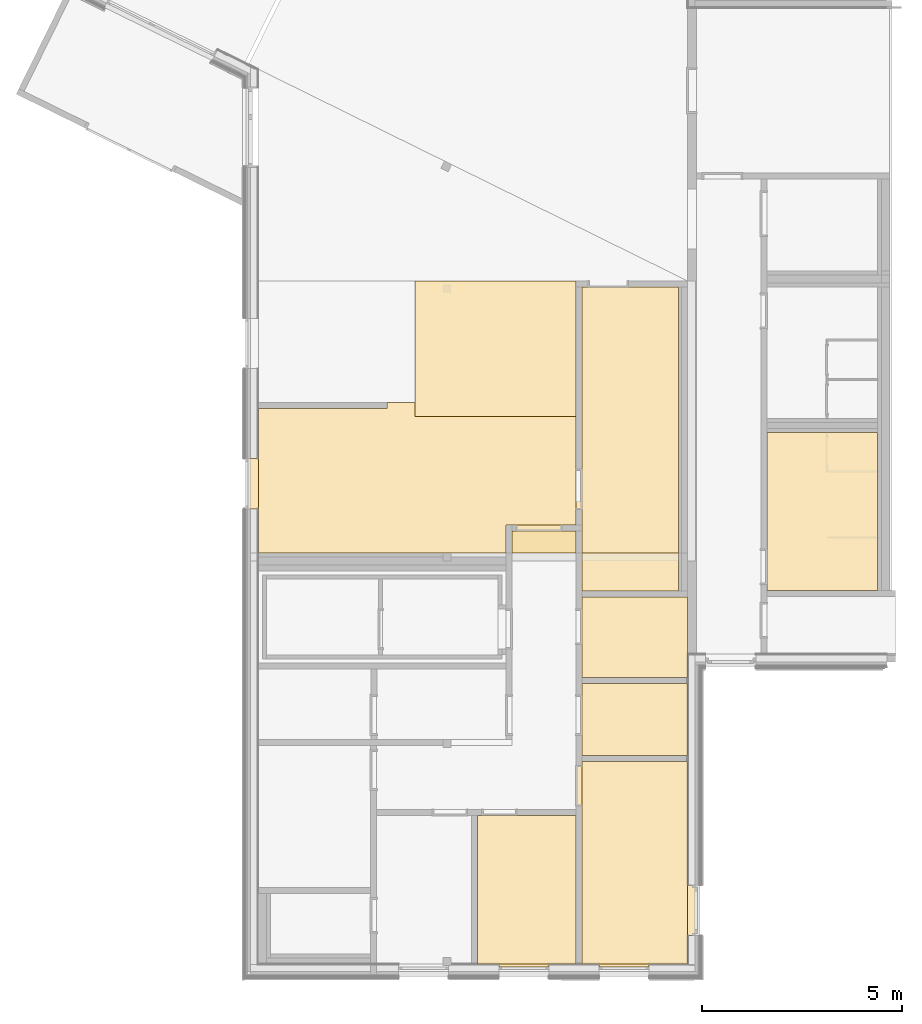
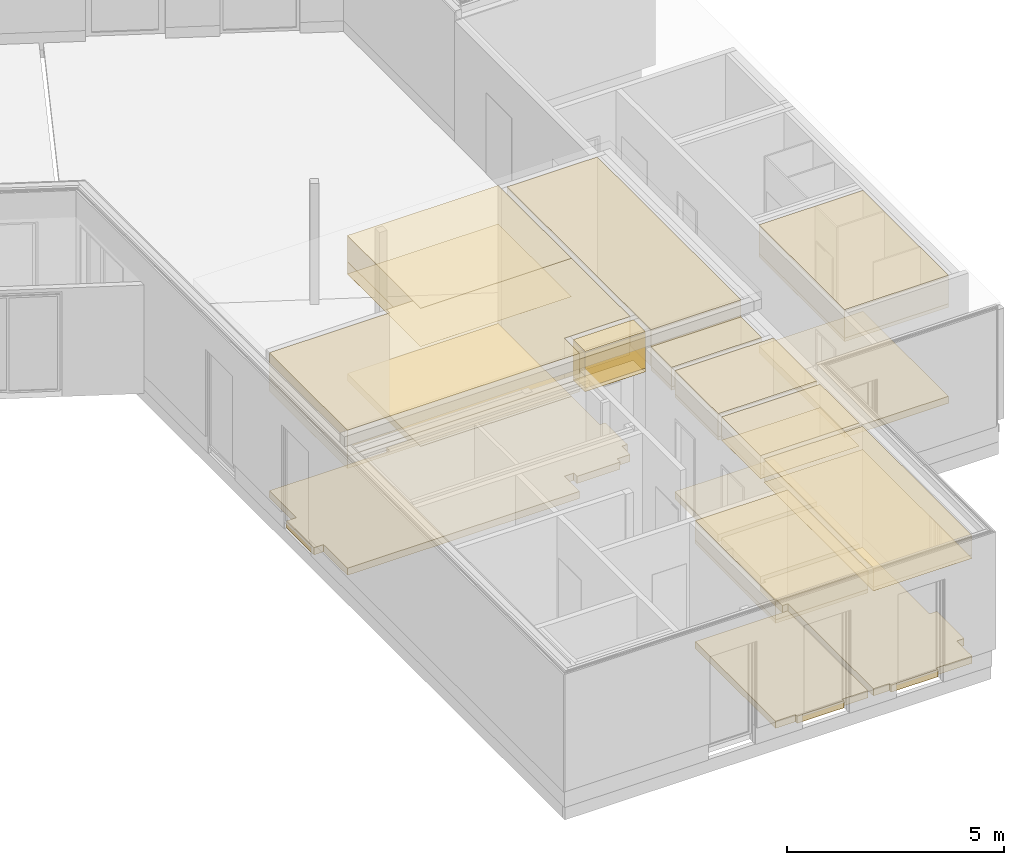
# One storey, part 22 of 23: 40 coverings.
"""IFC4 building model written with IfcOpenShell, lengths in metres."""

from ifc_helpers import new_model, entity, si_unit, converted_unit, derived_unit, frame, frame_2d, origin, origin_with_axes, place, context, subcontext, project, spatial, polyline, rectangle, outline, extrude, material, layer, layer_set, layer_usage, element, save


model = new_model("IFC4")

# Units and contexts
model_context = context("Model", 3, precision=1e-05, world=origin())
body_context = subcontext(model_context, "Body", "Model", "MODEL_VIEW")
ifc_project = project(units=[si_unit("LENGTHUNIT", "METRE"), si_unit("AREAUNIT", "SQUARE_METRE"), si_unit("VOLUMEUNIT", "CUBIC_METRE"), si_unit("MASSUNIT", "GRAM", prefix="KILO"), converted_unit("PLANEANGLEUNIT", "DEGREE", entity("IfcPlaneAngleMeasure", 0.0174532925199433), si_unit("PLANEANGLEUNIT", "RADIAN"), dimensions=[0, 0, 0, 0, 0, 0, 0]), derived_unit("THERMALTRANSMITTANCEUNIT", [(si_unit("POWERUNIT", "WATT"), 1), (si_unit("THERMODYNAMICTEMPERATUREUNIT", "KELVIN"), -1), (si_unit("LENGTHUNIT", "METRE"), -2)]), derived_unit("VOLUMETRICFLOWRATEUNIT", [(si_unit("LENGTHUNIT", "METRE"), 3), (converted_unit("TIMEUNIT", "hour", entity("IfcTimeMeasure", 3600.0), si_unit("TIMEUNIT", "SECOND"), dimensions=[0, 0, 1, 0, 0, 0, 0]), -1), (si_unit("LENGTHUNIT", "METRE"), -1)])], contexts=[model_context])

# Site, building, storey
site_placement = place(None, origin())
site = spatial("IfcSite", under=ifc_project, at=site_placement, Name="Psychiatrie Neubau Wunstorf", CompositionType="ELEMENT")
building_placement = place(site_placement, origin())
building = spatial("IfcBuilding", under=site, at=building_placement, Name="Neubau H1 Sozialzentrum", CompositionType="ELEMENT")
storey_placement = place(building_placement, frame((0.0, 0.0, 0.7)))
storey = spatial("IfcBuildingStorey", under=building, at=storey_placement, Name="H1 Ebene 0", CompositionType="ELEMENT", Elevation=0.7)

# Coverings
ifc_material_1 = material()
ifc_layer_1 = layer(ifc_material_1, 0.036)
ifc_layer_set_1 = layer_set([ifc_layer_1])
ifc_layer_usage_1 = layer_usage(ifc_layer_set_1, "AXIS3", "POSITIVE", 0.0)
covering_1_placement = place(storey_placement, frame((-9.53965856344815, 14.5122462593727, 3.88)))
element("IfcCovering", 1, at=covering_1_placement, inside=storey, material=ifc_layer_usage_1, Name="Gipsfaserplatten 2-lagig (BSK)", PredefinedType="CEILING", context=body_context, shape_type="SweptSolid", body=[
    extrude(rectangle(XDim=0.550000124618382, YDim=1.59813193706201, at=frame_2d((0.799065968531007, -0.275000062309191), x_axis=(0.0, -1.0))), frame((0.0, 0.0, 0.0), z_axis=(0.0, 0.0, -1.0), x_axis=(1.0, 0.0, 0.0)), (0.0, 0.0, 1.0), 0.036),
])
ifc_material_2 = material(Name="Installationshöhe")
ifc_layer_2 = layer(ifc_material_2, 0.994)
ifc_layer_set_2 = layer_set([ifc_layer_2])
ifc_layer_usage_2 = layer_usage(ifc_layer_set_2, "AXIS3", "POSITIVE", 0.0)
covering_2_placement = place(storey_placement, frame((-9.53965856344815, 14.5122462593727, 3.844)))
element("IfcCovering", 2, at=covering_2_placement, inside=storey, material=ifc_layer_usage_2, Name="Gipsfaserplatten 2-lagig (BSK)", PredefinedType="CEILING", context=body_context, shape_type="SweptSolid", body=[
    extrude(rectangle(XDim=0.550000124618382, YDim=1.59813193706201, at=frame_2d((0.799065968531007, -0.275000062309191), x_axis=(0.0, -1.0))), frame((0.0, 0.0, 0.0), z_axis=(0.0, 0.0, -1.0), x_axis=(1.0, 0.0, 0.0)), (0.0, 0.0, 1.0), 0.994),
])
ifc_material_3 = material(Name="A1")
ifc_layer_3 = layer(ifc_material_3, 0.1)
ifc_layer_set_3 = layer_set([ifc_layer_3])
ifc_layer_usage_3 = layer_usage(ifc_layer_set_3, "AXIS3", "POSITIVE", 0.0)
covering_3_placement = place(storey_placement, frame((-9.53965856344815, 14.5122462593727, 2.85)))
element("IfcCovering", 3, at=covering_3_placement, inside=storey, material=ifc_layer_usage_3, Name="Gipsfaserplatten 2-lagig (BSK)", PredefinedType="CEILING", context=body_context, shape_type="SweptSolid", body=[
    extrude(rectangle(XDim=0.550000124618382, YDim=1.59813193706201, at=frame_2d((0.799065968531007, -0.275000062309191), x_axis=(0.0, -1.0))), frame((0.0, 0.0, 0.0), z_axis=(0.0, 0.0, -1.0), x_axis=(1.0, 0.0, 0.0)), (0.0, 0.0, 1.0), 0.1),
])
ifc_material_4 = material(Name="D1")
ifc_layer_4 = layer(ifc_material_4, 0.001)
ifc_layer_set_4 = layer_set([ifc_layer_4])
ifc_layer_usage_4 = layer_usage(ifc_layer_set_4, "AXIS3", "POSITIVE", 0.0)
covering_4_placement = place(storey_placement, frame((-9.53965856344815, 14.5122462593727, 2.75)))
element("IfcCovering", 4, at=covering_4_placement, inside=storey, material=ifc_layer_usage_4, Name="Gipsfaserplatten 2-lagig (BSK)", PredefinedType="CEILING", context=body_context, shape_type="SweptSolid", body=[
    extrude(rectangle(XDim=0.550000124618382, YDim=1.59813193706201, at=frame_2d((0.799065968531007, -0.275000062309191), x_axis=(0.0, -1.0))), frame((0.0, 0.0, 0.0), z_axis=(0.0, 0.0, -1.0), x_axis=(1.0, 0.0, 0.0)), (0.0, 0.0, 1.0), 0.001),
])

# Space
space_1_placement = place(storey_placement, frame((-3.18450147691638, 13.5722463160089, -0.2)))
space_1 = spatial("IfcSpace", under=storey, at=space_1_placement, Name="WUN-H1-E00", CompositionType="ELEMENT")

# Coverings
ifc_material_5 = material(Name="Fl1")
ifc_layer_5 = layer(ifc_material_5, 0.2)
ifc_layer_set_5 = layer_set([ifc_layer_5])
ifc_layer_usage_5 = layer_usage(ifc_layer_set_5, "AXIS3", "POSITIVE", 0.0)
covering_5_placement = place(space_1_placement, origin())
element("IfcCovering", 5, at=covering_5_placement, inside=space_1, material=ifc_layer_usage_5, Name="Fliesen", PredefinedType="FLOORING", context=body_context, shape_type="SweptSolid", body=[
    extrude(rectangle(XDim=2.76350322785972, YDim=3.94, at=frame_2d((-1.38175161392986, -1.97), x_axis=(-1.0, 0.0))), frame((2.76350322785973, 3.94, 0.0), z_axis=(0.0, 0.0, 1.0), x_axis=(1.0, 0.0, 0.0)), (0.0, 0.0, 1.0), 0.2),
])
ifc_material_6 = material()
ifc_layer_6 = layer(ifc_material_6, 0.036)
ifc_layer_set_6 = layer_set([ifc_layer_6])
ifc_layer_usage_6 = layer_usage(ifc_layer_set_6, "AXIS3", "POSITIVE", 0.0)
covering_6_placement = place(space_1_placement, frame((0.0, 0.0, 3.6)))
element("IfcCovering", 6, at=covering_6_placement, inside=space_1, material=ifc_layer_usage_6, Name="Gipsfaserplatten 2-lagig (BSK)", PredefinedType="CEILING", context=body_context, shape_type="SweptSolid", body=[
    extrude(rectangle(XDim=2.76350322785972, YDim=3.94, at=frame_2d((1.38175161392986, 1.97), x_axis=(1.0, 0.0))), frame((0.0, 3.94, 0.0), z_axis=(0.0, 0.0, -1.0), x_axis=(1.0, 0.0, 0.0)), (0.0, 0.0, 1.0), 0.036),
])
ifc_material_7 = material(Name="Installationshöhe")
ifc_layer_7 = layer(ifc_material_7, 0.764)
ifc_layer_set_7 = layer_set([ifc_layer_7])
ifc_layer_usage_7 = layer_usage(ifc_layer_set_7, "AXIS3", "POSITIVE", 0.0)
covering_7_placement = place(space_1_placement, frame((0.0, 0.0, 3.564)))
element("IfcCovering", 7, at=covering_7_placement, inside=space_1, material=ifc_layer_usage_7, Name="Gipsfaserplatten 2-lagig (BSK)", PredefinedType="CEILING", context=body_context, shape_type="SweptSolid", body=[
    extrude(rectangle(XDim=2.76350322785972, YDim=3.94, at=frame_2d((1.38175161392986, 1.97), x_axis=(1.0, 0.0))), frame((0.0, 3.94, 0.0), z_axis=(0.0, 0.0, -1.0), x_axis=(1.0, 0.0, 0.0)), (0.0, 0.0, 1.0), 0.764),
])
ifc_material_8 = material(Name="B")
ifc_layer_8 = layer(ifc_material_8, 0.1)
ifc_layer_set_8 = layer_set([ifc_layer_8])
ifc_layer_usage_8 = layer_usage(ifc_layer_set_8, "AXIS3", "POSITIVE", 0.0)
covering_8_placement = place(space_1_placement, frame((0.0, 0.0, 2.8)))
element("IfcCovering", 8, at=covering_8_placement, inside=space_1, material=ifc_layer_usage_8, Name="Gipskarton, imprägniert", PredefinedType="CEILING", context=body_context, shape_type="SweptSolid", body=[
    extrude(rectangle(XDim=2.76350322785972, YDim=3.94, at=frame_2d((1.38175161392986, 1.97), x_axis=(1.0, 0.0))), frame((0.0, 3.94, 0.0), z_axis=(0.0, 0.0, -1.0), x_axis=(1.0, 0.0, 0.0)), (0.0, 0.0, 1.0), 0.1),
])
ifc_material_9 = material(Name="D1")
ifc_layer_9 = layer(ifc_material_9, 0.001)
ifc_layer_set_9 = layer_set([ifc_layer_9])
ifc_layer_usage_9 = layer_usage(ifc_layer_set_9, "AXIS3", "POSITIVE", 0.0)
covering_9_placement = place(space_1_placement, frame((0.0, 0.0, 2.7)))
element("IfcCovering", 9, at=covering_9_placement, inside=space_1, material=ifc_layer_usage_9, Name="Gipsfaserplatten 2-lagig (BSK)", PredefinedType="CEILING", context=body_context, shape_type="SweptSolid", body=[
    extrude(rectangle(XDim=2.76350322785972, YDim=3.94, at=frame_2d((1.38175161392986, 1.97), x_axis=(1.0, 0.0))), frame((0.0, 3.94, 0.0), z_axis=(0.0, 0.0, -1.0), x_axis=(1.0, 0.0, 0.0)), (0.0, 0.0, 1.0), 0.001),
])

# Space
space_2_placement = place(storey_placement, frame((-7.79152631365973, 11.4104216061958, -0.2)))
space_2 = spatial("IfcSpace", under=storey, at=space_2_placement, Name="WUN-H1-E00", CompositionType="ELEMENT")

# Coverings
ifc_material_10 = material(Name="Ku2")
ifc_layer_10 = layer(ifc_material_10, 0.2)
ifc_layer_set_10 = layer_set([ifc_layer_10])
ifc_layer_usage_10 = layer_usage(ifc_layer_set_10, "AXIS3", "POSITIVE", 0.0)
covering_10_placement = place(space_2_placement, origin())
element("IfcCovering", 10, at=covering_10_placement, inside=space_2, material=ifc_layer_usage_10, Name="PVC Bahnenware Uni", PredefinedType="FLOORING", context=body_context, shape_type="SweptSolid", body=[
    extrude(outline(polyline([(2.62500101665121, 0.0), (2.62500101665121, 1.99999995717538), (0.0, 1.99999995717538), (3.4154212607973e-07, 0.0), (2.62500101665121, 0.0)])), origin_with_axes(), (0.0, 0.0, 1.0), 0.2),
])
ifc_material_11 = material()
ifc_layer_11 = layer(ifc_material_11, 0.036)
ifc_layer_set_11 = layer_set([ifc_layer_11])
ifc_layer_usage_11 = layer_usage(ifc_layer_set_11, "AXIS3", "POSITIVE", 0.0)
covering_11_placement = place(space_2_placement, frame((0.0, 0.0, 3.6)))
element("IfcCovering", 11, at=covering_11_placement, inside=space_2, material=ifc_layer_usage_11, Name="Gipsfaserplatten 2-lagig (BSK)", PredefinedType="CEILING", context=body_context, shape_type="SweptSolid", body=[
    extrude(outline(polyline([(2.62500101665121, 0.0), (2.62500101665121, 1.99999995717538), (3.4154212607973e-07, 1.99999995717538), (0.0, 0.0), (2.62500101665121, 0.0)])), frame((0.0, 1.99999995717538, 0.0), z_axis=(0.0, 0.0, -1.0), x_axis=(1.0, 0.0, 0.0)), (0.0, 0.0, 1.0), 0.036),
])
ifc_material_12 = material(Name="Installationshöhe")
ifc_layer_12 = layer(ifc_material_12, 0.614)
ifc_layer_set_12 = layer_set([ifc_layer_12], Name="Reference")
ifc_layer_usage_12 = layer_usage(ifc_layer_set_12, "AXIS3", "POSITIVE", 0.0)
covering_12_placement = place(space_2_placement, frame((0.0, 0.0, 3.564)))
element("IfcCovering", 12, at=covering_12_placement, inside=space_2, material=ifc_layer_usage_12, Name="Gipsfaserplatten 2-lagig (BSK)", PredefinedType="CEILING", context=body_context, shape_type="SweptSolid", body=[
    extrude(outline(polyline([(2.62500101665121, 0.0), (2.62500101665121, 1.99999995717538), (3.4154212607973e-07, 1.99999995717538), (0.0, 0.0), (2.62500101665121, 0.0)])), frame((0.0, 1.99999995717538, 0.0), z_axis=(0.0, 0.0, -1.0), x_axis=(1.0, 0.0, 0.0)), (0.0, 0.0, 1.0), 0.614),
])
ifc_material_13 = material(Name="E3")
ifc_layer_13 = layer(ifc_material_13, 0.1)
ifc_layer_set_13 = layer_set([ifc_layer_13])
ifc_layer_usage_13 = layer_usage(ifc_layer_set_13, "AXIS3", "POSITIVE", 0.0)
covering_13_placement = place(space_2_placement, frame((0.0, 0.0, 2.95)))
element("IfcCovering", 13, at=covering_13_placement, inside=space_2, material=ifc_layer_usage_13, Name="Rasterdecke", PredefinedType="CEILING", context=body_context, shape_type="SweptSolid", body=[
    extrude(outline(polyline([(2.62500101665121, 0.0), (2.62500101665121, 1.99999995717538), (3.4154212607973e-07, 1.99999995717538), (0.0, 0.0), (2.62500101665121, 0.0)])), frame((0.0, 1.99999995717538, 0.0), z_axis=(0.0, 0.0, -1.0), x_axis=(1.0, 0.0, 0.0)), (0.0, 0.0, 1.0), 0.1),
])

# Space
space_3_placement = place(storey_placement, frame((-10.3945007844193, 4.26232136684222, -0.2)))
space_3 = spatial("IfcSpace", under=storey, at=space_3_placement, Name="WUN-H1-E00", CompositionType="ELEMENT")

# Coverings
ifc_material_14 = material(Name="Ku2")
ifc_layer_14 = layer(ifc_material_14, 0.2)
ifc_layer_set_14 = layer_set([ifc_layer_14])
ifc_layer_usage_14 = layer_usage(ifc_layer_set_14, "AXIS3", "POSITIVE", 0.0)
covering_14_placement = place(space_3_placement, frame((0.0, -0.0750000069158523, 0.0)))
element("IfcCovering", 14, at=covering_14_placement, inside=space_3, material=ifc_layer_usage_14, Name="PVC Bahnenware Uni", PredefinedType="FLOORING", context=body_context, shape_type="SweptSolid", body=[
    extrude(rectangle(XDim=1.25, YDim=0.0750000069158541, at=frame_2d((-0.625, -0.0375000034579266), x_axis=(-1.0, 7.27595761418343e-16))), frame((1.77597426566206, 0.0750000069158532, 0.0), z_axis=(0.0, 0.0, 1.0), x_axis=(1.0, 0.0, 0.0)), (0.0, 0.0, 1.0), 0.2),
    extrude(outline(polyline([(2.4529753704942, 3.70000403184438), (0.0, 3.70000359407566), (0.0, 0.0), (2.45297570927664, 0.0), (2.4529753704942, 3.70000403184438)])), frame((0.0, 0.0750000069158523, 0.0), z_axis=(0.0, 0.0, 1.0), x_axis=(1.0, 0.0, 0.0)), (0.0, 0.0, 1.0), 0.2),
])
ifc_material_15 = material()
ifc_layer_15 = layer(ifc_material_15, 0.036)
ifc_layer_set_15 = layer_set([ifc_layer_15])
ifc_layer_usage_15 = layer_usage(ifc_layer_set_15, "AXIS3", "POSITIVE", 0.0)
covering_15_placement = place(space_3_placement, frame((0.0, 0.0, 3.6)))
element("IfcCovering", 15, at=covering_15_placement, inside=space_3, material=ifc_layer_usage_15, Name="Gipsfaserplatten 2-lagig (BSK)", PredefinedType="CEILING", context=body_context, shape_type="SweptSolid", body=[
    extrude(outline(polyline([(0.0, 4.37768719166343e-07), (2.4529753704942, 0.0), (2.45297570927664, 3.70000403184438), (0.0, 3.70000403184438), (0.0, 4.37768719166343e-07)])), frame((0.0, 3.70000403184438, 0.0), z_axis=(0.0, 0.0, -1.0), x_axis=(1.0, 0.0, 0.0)), (0.0, 0.0, 1.0), 0.036),
])
ifc_material_16 = material(Name="Installationshöhe")
ifc_layer_16 = layer(ifc_material_16, 0.514)
ifc_layer_set_16 = layer_set([ifc_layer_16])
ifc_layer_usage_16 = layer_usage(ifc_layer_set_16, "AXIS3", "POSITIVE", 0.0)
covering_16_placement = place(space_3_placement, frame((0.0, 0.0, 3.564)))
element("IfcCovering", 16, at=covering_16_placement, inside=space_3, material=ifc_layer_usage_16, Name="Gipsfaserplatten 2-lagig (BSK)", PredefinedType="CEILING", context=body_context, shape_type="SweptSolid", body=[
    extrude(outline(polyline([(0.0, 4.37768719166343e-07), (2.4529753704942, 0.0), (2.45297570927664, 3.70000403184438), (0.0, 3.70000403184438), (0.0, 4.37768719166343e-07)])), frame((0.0, 3.70000403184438, 0.0), z_axis=(0.0, 0.0, -1.0), x_axis=(1.0, 0.0, 0.0)), (0.0, 0.0, 1.0), 0.514),
])
ifc_material_17 = material(Name="A1")
ifc_layer_17 = layer(ifc_material_17, 0.1)
ifc_layer_set_17 = layer_set([ifc_layer_17])
ifc_layer_usage_17 = layer_usage(ifc_layer_set_17, "AXIS3", "POSITIVE", 0.0)
covering_17_placement = place(space_3_placement, frame((0.0, 0.0, 3.05)))
element("IfcCovering", 17, at=covering_17_placement, inside=space_3, material=ifc_layer_usage_17, Name="Gipsfaserplatten 2-lagig (BSK)", PredefinedType="CEILING", context=body_context, shape_type="SweptSolid", body=[
    extrude(outline(polyline([(0.0, 4.37768719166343e-07), (2.4529753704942, 0.0), (2.45297570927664, 3.70000403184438), (0.0, 3.70000403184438), (0.0, 4.37768719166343e-07)])), frame((0.0, 3.70000403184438, 0.0), z_axis=(0.0, 0.0, -1.0), x_axis=(1.0, 0.0, 0.0)), (0.0, 0.0, 1.0), 0.1),
])
ifc_material_18 = material(Name="D1")
ifc_layer_18 = layer(ifc_material_18, 0.001)
ifc_layer_set_18 = layer_set([ifc_layer_18])
ifc_layer_usage_18 = layer_usage(ifc_layer_set_18, "AXIS3", "POSITIVE", 0.0)
covering_18_placement = place(space_3_placement, frame((0.0, 0.0, 2.95)))
element("IfcCovering", 18, at=covering_18_placement, inside=space_3, material=ifc_layer_usage_18, Name="Gipsfaserplatten 2-lagig (BSK)", PredefinedType="CEILING", context=body_context, shape_type="SweptSolid", body=[
    extrude(outline(polyline([(0.0, 4.37768719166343e-07), (2.4529753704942, 0.0), (2.45297570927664, 3.70000403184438), (0.0, 3.70000403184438), (0.0, 4.37768719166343e-07)])), frame((0.0, 3.70000403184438, 0.0), z_axis=(0.0, 0.0, -1.0), x_axis=(1.0, 0.0, 0.0)), (0.0, 0.0, 1.0), 0.001),
])

# Space
space_4_placement = place(storey_placement, frame((-7.79152478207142, 4.26232136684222, -0.2)))
space_4 = spatial("IfcSpace", under=storey, at=space_4_placement, Name="WUN-H1-E00", CompositionType="ELEMENT")

# Coverings
ifc_material_19 = material(Name="Ku2")
ifc_layer_19 = layer(ifc_material_19, 0.2)
ifc_layer_set_19 = layer_set([ifc_layer_19])
ifc_layer_usage_19 = layer_usage(ifc_layer_set_19, "AXIS3", "POSITIVE", 0.0)
covering_19_placement = place(space_4_placement, frame((-0.15000084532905, -0.0750000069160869, 0.0)))
element("IfcCovering", 19, at=covering_19_placement, inside=space_4, material=ifc_layer_usage_19, Name="PVC Bahnenware Uni", PredefinedType="FLOORING", context=body_context, shape_type="SweptSolid", body=[
    extrude(outline(polyline([(0.0, 1.25999999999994), (3.81454558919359e-07, 0.0), (0.195999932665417, 5.93372396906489e-08), (0.195999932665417, 1.2600000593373), (0.0, 1.25999999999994)])), frame((2.7749998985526, 0.778925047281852, 0.0), z_axis=(1.45008919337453e-16, -2.2556890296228e-17, 1.0), x_axis=(1.0, 0.0, 0.0)), (0.0, 2.2556890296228e-17, 1.0), 0.2),
    extrude(rectangle(XDim=1.25, YDim=0.075000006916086, at=frame_2d((-0.625, -0.0375000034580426), x_axis=(-1.0, 7.27595761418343e-16))), frame((1.82299910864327, 0.0750000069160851, 0.0), z_axis=(0.0, 0.0, 1.0), x_axis=(1.0, 0.0, 0.0)), (0.0, 0.0, 1.0), 0.2),
    extrude(rectangle(XDim=0.150000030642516, YDim=1.01000000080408, at=frame_2d((-0.0749999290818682, -0.505000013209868), x_axis=(-0.999999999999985, -1.70771068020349e-07))), frame((0.150000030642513, 5.02507189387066, 0.0), z_axis=(0.0, 0.0, 1.0), x_axis=(1.0, 0.0, 0.0)), (0.0, 0.0, 1.0), 0.2),
    extrude(outline(polyline([(0.0, 5.05007176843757), (3.06425190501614e-08, 0.0), (2.62499792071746, 0.0), (2.62499792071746, 5.05007176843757), (0.0, 5.05007176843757)])), frame((0.15000084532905, 0.0750000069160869, 0.0), z_axis=(0.0, 0.0, 1.0), x_axis=(1.0, 0.0, 0.0)), (0.0, 0.0, 1.0), 0.2),
])
ifc_material_20 = material()
ifc_layer_20 = layer(ifc_material_20, 0.036)
ifc_layer_set_20 = layer_set([ifc_layer_20])
ifc_layer_usage_20 = layer_usage(ifc_layer_set_20, "AXIS3", "POSITIVE", 0.0)
covering_20_placement = place(space_4_placement, frame((0.0, 0.0, 3.6)))
element("IfcCovering", 20, at=covering_20_placement, inside=space_4, material=ifc_layer_usage_20, Name="Gipsfaserplatten 2-lagig (BSK)", PredefinedType="CEILING", context=body_context, shape_type="SweptSolid", body=[
    extrude(outline(polyline([(3.06425190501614e-08, 5.05007176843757), (0.0, 0.0), (2.62499792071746, 0.0), (2.62499792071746, 5.05007176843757), (3.06425190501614e-08, 5.05007176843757)])), frame((0.0, 5.05007176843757, 0.0), z_axis=(0.0, 0.0, -1.0), x_axis=(1.0, 0.0, 0.0)), (0.0, 0.0, 1.0), 0.036),
])
ifc_material_21 = material(Name="Installationshöhe")
ifc_layer_21 = layer(ifc_material_21, 0.514)
ifc_layer_set_21 = layer_set([ifc_layer_21])
ifc_layer_usage_21 = layer_usage(ifc_layer_set_21, "AXIS3", "POSITIVE", 0.0)
covering_21_placement = place(space_4_placement, frame((0.0, 0.0, 3.564)))
element("IfcCovering", 21, at=covering_21_placement, inside=space_4, material=ifc_layer_usage_21, Name="Gipsfaserplatten 2-lagig (BSK)", PredefinedType="CEILING", context=body_context, shape_type="SweptSolid", body=[
    extrude(outline(polyline([(3.06425190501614e-08, 5.05007176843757), (0.0, 0.0), (2.62499792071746, 0.0), (2.62499792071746, 5.05007176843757), (3.06425190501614e-08, 5.05007176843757)])), frame((0.0, 5.05007176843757, 0.0), z_axis=(0.0, 0.0, -1.0), x_axis=(1.0, 0.0, 0.0)), (0.0, 0.0, 1.0), 0.514),
])
ifc_material_22 = material(Name="A1")
ifc_layer_22 = layer(ifc_material_22, 0.1)
ifc_layer_set_22 = layer_set([ifc_layer_22])
ifc_layer_usage_22 = layer_usage(ifc_layer_set_22, "AXIS3", "POSITIVE", 0.0)
covering_22_placement = place(space_4_placement, frame((0.0, 0.0, 3.05)))
element("IfcCovering", 22, at=covering_22_placement, inside=space_4, material=ifc_layer_usage_22, Name="Gipsfaserplatten 2-lagig (BSK)", PredefinedType="CEILING", context=body_context, shape_type="SweptSolid", body=[
    extrude(outline(polyline([(3.06425190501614e-08, 5.05007176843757), (0.0, 0.0), (2.62499792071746, 0.0), (2.62499792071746, 5.05007176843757), (3.06425190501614e-08, 5.05007176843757)])), frame((0.0, 5.05007176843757, 0.0), z_axis=(0.0, 0.0, -1.0), x_axis=(1.0, 0.0, 0.0)), (0.0, 0.0, 1.0), 0.1),
])
ifc_material_23 = material(Name="D1")
ifc_layer_23 = layer(ifc_material_23, 0.001)
ifc_layer_set_23 = layer_set([ifc_layer_23])
ifc_layer_usage_23 = layer_usage(ifc_layer_set_23, "AXIS3", "POSITIVE", 0.0)
covering_23_placement = place(space_4_placement, frame((0.0, 0.0, 2.95)))
element("IfcCovering", 23, at=covering_23_placement, inside=space_4, material=ifc_layer_usage_23, Name="Gipsfaserplatten 2-lagig (BSK)", PredefinedType="CEILING", context=body_context, shape_type="SweptSolid", body=[
    extrude(outline(polyline([(3.06425190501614e-08, 5.05007176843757), (0.0, 0.0), (2.62499792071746, 0.0), (2.62499792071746, 5.05007176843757), (3.06425190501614e-08, 5.05007176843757)])), frame((0.0, 5.05007176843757, 0.0), z_axis=(0.0, 0.0, -1.0), x_axis=(1.0, 0.0, 0.0)), (0.0, 0.0, 1.0), 0.001),
])

# Space
space_5_placement = place(storey_placement, frame((-7.79152594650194, 9.46239313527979, -0.2)))
space_5 = spatial("IfcSpace", under=storey, at=space_5_placement, Name="WUN-H1-E00", CompositionType="ELEMENT")

# Coverings
ifc_material_24 = material(Name="Ku3")
ifc_layer_24 = layer(ifc_material_24, 0.2)
ifc_layer_set_24 = layer_set([ifc_layer_24])
ifc_layer_usage_24 = layer_usage(ifc_layer_set_24, "AXIS3", "POSITIVE", 0.0)
covering_24_placement = place(space_5_placement, origin())
element("IfcCovering", 24, at=covering_24_placement, inside=space_5, material=ifc_layer_usage_24, Name="PVC", PredefinedType="FLOORING", context=body_context, shape_type="SweptSolid", body=[
    extrude(rectangle(XDim=2.62499869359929, YDim=1.79802835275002, at=frame_2d((-1.31249919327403, -0.899014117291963), x_axis=(-0.999999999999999, 4.50156688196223e-08))), frame((2.62499869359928, 1.79802835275, 0.0), z_axis=(0.0, 0.0, 1.0), x_axis=(1.0, 0.0, 0.0)), (0.0, 0.0, 1.0), 0.2),
])
ifc_material_25 = material(Name="Installationshöhe")
ifc_layer_25 = layer(ifc_material_25, 0.55)
ifc_layer_set_25 = layer_set([ifc_layer_25])
ifc_layer_usage_25 = layer_usage(ifc_layer_set_25, "AXIS3", "POSITIVE", 0.0)
covering_25_placement = place(space_5_placement, frame((0.0, 0.0, 3.6)))
element("IfcCovering", 25, at=covering_25_placement, inside=space_5, material=ifc_layer_usage_25, Name="a-sh Deckenbelag", PredefinedType="CEILING", context=body_context, shape_type="SweptSolid", body=[
    extrude(rectangle(XDim=2.62499869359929, YDim=1.79802835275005, at=frame_2d((1.3124995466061, 0.899014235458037), x_axis=(0.999999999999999, 4.50156688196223e-08))), frame((0.0, 1.79802847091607, 0.0), z_axis=(0.0, 0.0, -1.0), x_axis=(1.0, 0.0, 0.0)), (0.0, 0.0, 1.0), 0.55),
])
ifc_material_26 = material(Name="A")
ifc_layer_26 = layer(ifc_material_26, 0.1)
ifc_layer_set_26 = layer_set([ifc_layer_26], Name="Reference")
ifc_layer_usage_26 = layer_usage(ifc_layer_set_26, "AXIS3", "POSITIVE", 0.0)
covering_26_placement = place(space_5_placement, frame((0.0, 0.0, 3.05)))
element("IfcCovering", 26, at=covering_26_placement, inside=space_5, material=ifc_layer_usage_26, Name="a-sh Deckenbelag", PredefinedType="CEILING", context=body_context, shape_type="SweptSolid", body=[
    extrude(rectangle(XDim=2.62499869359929, YDim=1.79802835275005, at=frame_2d((1.3124995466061, 0.899014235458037), x_axis=(0.999999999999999, 4.50156688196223e-08))), frame((0.0, 1.79802847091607, 0.0), z_axis=(0.0, 0.0, -1.0), x_axis=(1.0, 0.0, 0.0)), (0.0, 0.0, 1.0), 0.1),
])
ifc_material_27 = material(Name="-")
ifc_layer_27 = layer(ifc_material_27, 0.001)
ifc_layer_set_27 = layer_set([ifc_layer_27])
ifc_layer_usage_27 = layer_usage(ifc_layer_set_27, "AXIS3", "POSITIVE", 0.0)
covering_27_placement = place(space_5_placement, frame((0.0, 0.0, 2.95)))
element("IfcCovering", 27, at=covering_27_placement, inside=space_5, material=ifc_layer_usage_27, Name="a-sh Deckenbelag", PredefinedType="CEILING", context=body_context, shape_type="SweptSolid", body=[
    extrude(rectangle(XDim=2.62499869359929, YDim=1.79802835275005, at=frame_2d((1.3124995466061, 0.899014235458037), x_axis=(0.999999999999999, 4.50156688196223e-08))), frame((0.0, 1.79802847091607, 0.0), z_axis=(0.0, 0.0, -1.0), x_axis=(1.0, 0.0, 0.0)), (0.0, 0.0, 1.0), 0.001),
])

# Space
space_6_placement = place(storey_placement, frame((-11.95352706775, 17.9091808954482, -0.2)))
space_6 = spatial("IfcSpace", under=storey, at=space_6_placement, Name="WUN-H1-E00", CompositionType="ELEMENT")

# Coverings
ifc_material_28 = material(Name="Fl12")
ifc_layer_28 = layer(ifc_material_28, 0.2)
ifc_layer_set_28 = layer_set([ifc_layer_28])
ifc_layer_usage_28 = layer_usage(ifc_layer_set_28, "AXIS3", "POSITIVE", 0.0)
covering_28_placement = place(space_6_placement, origin())
element("IfcCovering", 28, at=covering_28_placement, inside=space_6, material=ifc_layer_usage_28, Name="Fliesen Großformat", PredefinedType="FLOORING", context=body_context, shape_type="SweptSolid", body=[
    extrude(outline(polyline([(4.01200000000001, 3.37906542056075), (0.0, 3.37906542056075), (0.0, 0.0), (4.0139331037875, 0.0), (4.0139331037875, 0.349999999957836), (4.01200000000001, 0.349999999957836), (4.01200000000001, 3.37906542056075)])), origin_with_axes(), (0.0, 0.0, 1.0), 0.2),
])
ifc_material_29 = material(Name="Installationshöhe")
ifc_layer_29 = layer(ifc_material_29, 0.73)
ifc_layer_set_29 = layer_set([ifc_layer_29])
ifc_layer_usage_29 = layer_usage(ifc_layer_set_29, "AXIS3", "POSITIVE", 0.0)
covering_29_placement = place(space_6_placement, frame((0.0, 0.0, 4.08)))
element("IfcCovering", 29, at=covering_29_placement, inside=space_6, material=ifc_layer_usage_29, Name="a-sh Deckenbelag", PredefinedType="CEILING", context=body_context, shape_type="SweptSolid", body=[
    extrude(outline(polyline([(0.0, 0.0), (4.01200000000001, 0.0), (4.01200000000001, 3.02906542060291), (4.0139331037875, 3.02906542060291), (4.0139331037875, 3.37906542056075), (0.0, 3.37906542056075), (0.0, 0.0)])), frame((0.0, 3.37906542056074, 0.0), z_axis=(0.0, 0.0, -1.0), x_axis=(1.0, 0.0, 0.0)), (0.0, 0.0, 1.0), 0.73),
])
ifc_material_30 = material(Name="A")
ifc_layer_30 = layer(ifc_material_30, 0.35)
ifc_layer_set_30 = layer_set([ifc_layer_30], Name="Reference")
ifc_layer_usage_30 = layer_usage(ifc_layer_set_30, "AXIS3", "POSITIVE", 0.0)
covering_30_placement = place(space_6_placement, frame((0.0, 0.0, 3.35)))
element("IfcCovering", 30, at=covering_30_placement, inside=space_6, material=ifc_layer_usage_30, Name="a-sh Deckenbelag", PredefinedType="CEILING", context=body_context, shape_type="SweptSolid", body=[
    extrude(outline(polyline([(0.0, 0.0), (4.01200000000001, 0.0), (4.01200000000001, 3.02906542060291), (4.0139331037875, 3.02906542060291), (4.0139331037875, 3.37906542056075), (0.0, 3.37906542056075), (0.0, 0.0)])), frame((0.0, 3.37906542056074, 0.0), z_axis=(0.0, 0.0, -1.0), x_axis=(1.0, 0.0, 0.0)), (0.0, 0.0, 1.0), 0.35),
])
ifc_material_31 = material(Name="-")
ifc_layer_31 = layer(ifc_material_31, 0.001)
ifc_layer_set_31 = layer_set([ifc_layer_31])
ifc_layer_usage_31 = layer_usage(ifc_layer_set_31, "AXIS3", "POSITIVE", 0.0)
covering_31_placement = place(space_6_placement, frame((0.0, 0.0, 3.0)))
element("IfcCovering", 31, at=covering_31_placement, inside=space_6, material=ifc_layer_usage_31, Name="a-sh Deckenbelag", PredefinedType="CEILING", context=body_context, shape_type="SweptSolid", body=[
    extrude(outline(polyline([(0.0, 0.0), (4.01200000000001, 0.0), (4.01200000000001, 3.02906542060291), (4.0139331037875, 3.02906542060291), (4.0139331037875, 3.37906542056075), (0.0, 3.37906542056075), (0.0, 0.0)])), frame((0.0, 3.37906542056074, 0.0), z_axis=(0.0, 0.0, -1.0), x_axis=(1.0, 0.0, 0.0)), (0.0, 0.0, 1.0), 0.001),
])

# Space
space_7_placement = place(storey_placement, frame((-15.8625278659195, 14.5122463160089, -0.2)))
space_7 = spatial("IfcSpace", under=storey, at=space_7_placement, Name="WUN-H1-E00", CompositionType="ELEMENT")

# Coverings
ifc_material_32 = material(Name="Fl12")
ifc_layer_32 = layer(ifc_material_32, 0.2)
ifc_layer_set_32 = layer_set([ifc_layer_32])
ifc_layer_usage_32 = layer_usage(ifc_layer_set_32, "AXIS3", "POSITIVE", 0.0)
covering_32_placement = place(space_7_placement, frame((-0.256997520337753, 0.0, 0.0)))
element("IfcCovering", 32, at=covering_32_placement, inside=space_7, material=ifc_layer_usage_32, Name="Fliesen Großformat", PredefinedType="FLOORING", context=body_context, shape_type="SweptSolid", body=[
    extrude(rectangle(XDim=0.256998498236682, YDim=1.25000000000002, at=frame_2d((-0.128499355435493, -0.625000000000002), x_axis=(-1.0, 0.0))), frame((0.256998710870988, 2.34807490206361, 0.0), z_axis=(0.0, 0.0, 1.0), x_axis=(1.0, 0.0, 0.0)), (0.0, 0.0, 1.0), 0.2),
    extrude(rectangle(XDim=0.15, YDim=1.15, at=frame_2d((0.575, -0.075), x_axis=(0.0, -1.0))), frame((6.67986658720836, 0.700000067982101, 0.0), z_axis=(0.0, 0.0, 1.0), x_axis=(1.0, 0.0, 0.0)), (0.0, 0.0, 1.0), 0.2),
    extrude(rectangle(XDim=0.149999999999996, YDim=1.01, at=frame_2d((0.0749999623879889, 0.505), x_axis=(1.0, 0.0))), frame((8.17799873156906, 1.07999962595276, 0.0), z_axis=(0.0, 0.0, 1.0), x_axis=(1.0, 0.0, 0.0)), (0.0, 0.0, 1.0), 0.2),
    extrude(outline(polyline([(7.92100080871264, 3.39693457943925), (3.90900079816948, 3.39693457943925), (3.90900079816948, 3.74693457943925), (3.20237010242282, 3.74693457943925), (3.20237010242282, 3.59693457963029), (1.19053323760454e-06, 3.59693457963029), (0.0, 0.0), (6.17286908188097, 0.0), (6.17286906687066, 0.700000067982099), (7.92100123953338, 0.700000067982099), (7.92100080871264, 3.39693457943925)])), frame((0.256997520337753, 0.0, 0.0), z_axis=(0.0, 0.0, 1.0), x_axis=(1.0, 0.0, 0.0)), (0.0, 0.0, 1.0), 0.2),
])
ifc_material_33 = material(Name="Installationshöhe")
ifc_layer_33 = layer(ifc_material_33, 0.73)
ifc_layer_set_33 = layer_set([ifc_layer_33])
ifc_layer_usage_33 = layer_usage(ifc_layer_set_33, "AXIS3", "POSITIVE", 0.0)
covering_33_placement = place(space_7_placement, frame((0.0, 0.0, 4.08)))
element("IfcCovering", 33, at=covering_33_placement, inside=space_7, material=ifc_layer_usage_33, Name="a-sh Deckenbelag", PredefinedType="CEILING", context=body_context, shape_type="SweptSolid", body=[
    extrude(outline(polyline([(3.90900079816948, 0.349999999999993), (7.92100080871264, 0.349999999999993), (7.92100123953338, 3.04693451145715), (6.17286906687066, 3.04693451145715), (6.17286908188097, 3.74693457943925), (0.0, 3.7469345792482), (1.19053323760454e-06, 0.149999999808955), (3.20237010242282, 0.149999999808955), (3.20237010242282, 0.0), (3.90900079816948, 0.0), (3.90900079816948, 0.349999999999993)])), frame((0.0, 3.74693457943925, 0.0), z_axis=(0.0, 0.0, -1.0), x_axis=(1.0, 0.0, 0.0)), (0.0, 0.0, 1.0), 0.73),
])
ifc_material_34 = material(Name="A")
ifc_layer_34 = layer(ifc_material_34, 0.35)
ifc_layer_set_34 = layer_set([ifc_layer_34], Name="Reference")
ifc_layer_usage_34 = layer_usage(ifc_layer_set_34, "AXIS3", "POSITIVE", 0.0)
covering_34_placement = place(space_7_placement, frame((0.0, 0.0, 3.35)))
element("IfcCovering", 34, at=covering_34_placement, inside=space_7, material=ifc_layer_usage_34, Name="a-sh Deckenbelag", PredefinedType="CEILING", context=body_context, shape_type="SweptSolid", body=[
    extrude(outline(polyline([(3.90900079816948, 0.349999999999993), (7.92100080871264, 0.349999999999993), (7.92100123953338, 3.04693451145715), (6.17286906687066, 3.04693451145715), (6.17286908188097, 3.74693457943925), (0.0, 3.7469345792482), (1.19053323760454e-06, 0.149999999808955), (3.20237010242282, 0.149999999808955), (3.20237010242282, 0.0), (3.90900079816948, 0.0), (3.90900079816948, 0.349999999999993)])), frame((0.0, 3.74693457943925, 0.0), z_axis=(0.0, 0.0, -1.0), x_axis=(1.0, 0.0, 0.0)), (0.0, 0.0, 1.0), 0.35),
])
ifc_material_35 = material(Name="-")
ifc_layer_35 = layer(ifc_material_35, 0.001)
ifc_layer_set_35 = layer_set([ifc_layer_35])
ifc_layer_usage_35 = layer_usage(ifc_layer_set_35, "AXIS3", "POSITIVE", 0.0)
covering_35_placement = place(space_7_placement, frame((0.0, 0.0, 3.0)))
element("IfcCovering", 35, at=covering_35_placement, inside=space_7, material=ifc_layer_usage_35, Name="a-sh Deckenbelag", PredefinedType="CEILING", context=body_context, shape_type="SweptSolid", body=[
    extrude(outline(polyline([(3.90900079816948, 0.349999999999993), (7.92100080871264, 0.349999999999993), (7.92100123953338, 3.04693451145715), (6.17286906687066, 3.04693451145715), (6.17286908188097, 3.74693457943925), (0.0, 3.7469345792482), (1.19053323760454e-06, 0.149999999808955), (3.20237010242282, 0.149999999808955), (3.20237010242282, 0.0), (3.90900079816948, 0.0), (3.90900079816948, 0.349999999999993)])), frame((0.0, 3.74693457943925, 0.0), z_axis=(0.0, 0.0, -1.0), x_axis=(1.0, 0.0, 0.0)), (0.0, 0.0, 1.0), 0.001),
])

# Space
space_8_placement = place(storey_placement, frame((-7.79152706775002, 13.5604215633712, -0.2)))
space_8 = spatial("IfcSpace", under=storey, at=space_8_placement, Name="WUN-H1-E00", CompositionType="ELEMENT")

# Coverings
ifc_material_36 = material()
ifc_layer_36 = layer(ifc_material_36, 0.036)
ifc_layer_set_36 = layer_set([ifc_layer_36])
ifc_layer_usage_36 = layer_usage(ifc_layer_set_36, "AXIS3", "POSITIVE", 0.0)
covering_36_placement = place(space_8_placement, frame((5.65930515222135e-07, 0.0, 3.6)))
element("IfcCovering", 36, at=covering_36_placement, inside=space_8, material=ifc_layer_usage_36, Name="Gipsfaserplatten 2-lagig (BSK)", PredefinedType="CEILING", context=body_context, shape_type="SweptSolid", body=[
    extrude(rectangle(XDim=2.40000120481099, YDim=0.951824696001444, at=frame_2d((1.20000060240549, 0.475912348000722), x_axis=(1.0, 0.0))), frame((0.0, 0.951824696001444, 0.0), z_axis=(0.0, 0.0, -1.0), x_axis=(1.0, 0.0, 0.0)), (0.0, 0.0, 1.0), 0.036),
])
ifc_material_37 = material(Name="Installationshöhe")
ifc_layer_37 = layer(ifc_material_37, 0.514)
ifc_layer_set_37 = layer_set([ifc_layer_37], Name="Reference")
ifc_layer_usage_37 = layer_usage(ifc_layer_set_37, "AXIS3", "POSITIVE", 0.0)
covering_37_placement = place(space_8_placement, frame((5.65930515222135e-07, 0.0, 3.564)))
element("IfcCovering", 37, at=covering_37_placement, inside=space_8, material=ifc_layer_usage_37, Name="Gipsfaserplatten 2-lagig (BSK)", PredefinedType="CEILING", context=body_context, shape_type="SweptSolid", body=[
    extrude(rectangle(XDim=2.40000120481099, YDim=0.951824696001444, at=frame_2d((1.20000060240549, 0.475912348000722), x_axis=(1.0, 0.0))), frame((0.0, 0.951824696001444, 0.0), z_axis=(0.0, 0.0, -1.0), x_axis=(1.0, 0.0, 0.0)), (0.0, 0.0, 1.0), 0.514),
])
ifc_material_38 = material(Name="E3")
ifc_layer_38 = layer(ifc_material_38, 0.1)
ifc_layer_set_38 = layer_set([ifc_layer_38])
ifc_layer_usage_38 = layer_usage(ifc_layer_set_38, "AXIS3", "POSITIVE", 0.0)
covering_38_placement = place(space_8_placement, frame((5.65930515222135e-07, 0.0, 3.05)))
element("IfcCovering", 38, at=covering_38_placement, inside=space_8, material=ifc_layer_usage_38, Name="Rasterdecke", PredefinedType="CEILING", context=body_context, shape_type="SweptSolid", body=[
    extrude(rectangle(XDim=2.40000120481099, YDim=0.951824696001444, at=frame_2d((1.20000060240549, 0.475912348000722), x_axis=(1.0, 0.0))), frame((0.0, 0.951824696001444, 0.0), z_axis=(0.0, 0.0, -1.0), x_axis=(1.0, 0.0, 0.0)), (0.0, 0.0, 1.0), 0.1),
])
ifc_material_39 = material()
ifc_layer_39 = layer(ifc_material_39, 0.036)
ifc_layer_set_39 = layer_set([ifc_layer_39])
ifc_layer_usage_39 = layer_usage(ifc_layer_set_39, "AXIS3", "POSITIVE", 0.0)
covering_39_placement = place(space_8_placement, frame((5.65930515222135e-07, 0.951824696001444, 4.08)))
element("IfcCovering", 39, at=covering_39_placement, inside=space_8, material=ifc_layer_usage_39, Name="Gipsfaserplatten 2-lagig (BSK)", PredefinedType="CEILING", context=body_context, shape_type="SweptSolid", body=[
    extrude(rectangle(XDim=6.62600005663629, YDim=2.40000120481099, at=frame_2d((1.20000060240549, -3.31300002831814), x_axis=(0.0, -1.0))), frame((0.0, 0.0, 0.0), z_axis=(0.0, 0.0, -1.0), x_axis=(1.0, 0.0, 0.0)), (0.0, 0.0, 1.0), 0.036),
])
ifc_material_40 = material(Name="Installationshöhe")
ifc_layer_40 = layer(ifc_material_40, 0.994)
ifc_layer_set_40 = layer_set([ifc_layer_40], Name="Reference")
ifc_layer_usage_40 = layer_usage(ifc_layer_set_40, "AXIS3", "POSITIVE", 0.0)
covering_40_placement = place(space_8_placement, frame((5.65930515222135e-07, 0.951824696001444, 4.044)))
element("IfcCovering", 40, at=covering_40_placement, inside=space_8, material=ifc_layer_usage_40, Name="Gipsfaserplatten 2-lagig (BSK)", PredefinedType="CEILING", context=body_context, shape_type="SweptSolid", body=[
    extrude(rectangle(XDim=6.62600005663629, YDim=2.40000120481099, at=frame_2d((1.20000060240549, -3.31300002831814), x_axis=(0.0, -1.0))), frame((0.0, 0.0, 0.0), z_axis=(0.0, 0.0, -1.0), x_axis=(1.0, 0.0, 0.0)), (0.0, 0.0, 1.0), 0.994),
])

save(model, "model.ifc")
